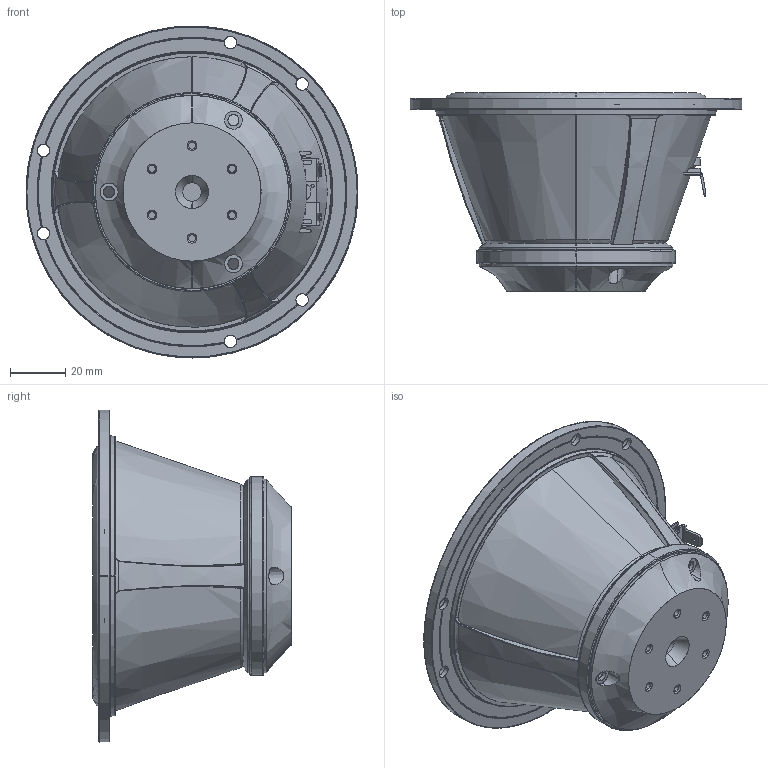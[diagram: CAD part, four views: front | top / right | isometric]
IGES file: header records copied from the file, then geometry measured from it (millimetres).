
Start section: SolidWorks IGES file using analytic representation for surfaces
Global section: file name: W:\TT\12MU\12MU-8731T00.IGS; native system: SolidWorks 2019; preprocessor: SolidWorks 2019; author: mhn; date: 201123.123054; units: millimetre
Bounding box: 120.13 x 71.95 x 120.13 mm (x, y, z)
Surface area: 44410.6 mm2 (no closed solid volume)
Topology: 0 solids, 0 shells, 523 faces, 7169 edges, 7162 vertices
Faces by surface type: bspline 314, revolution 209
